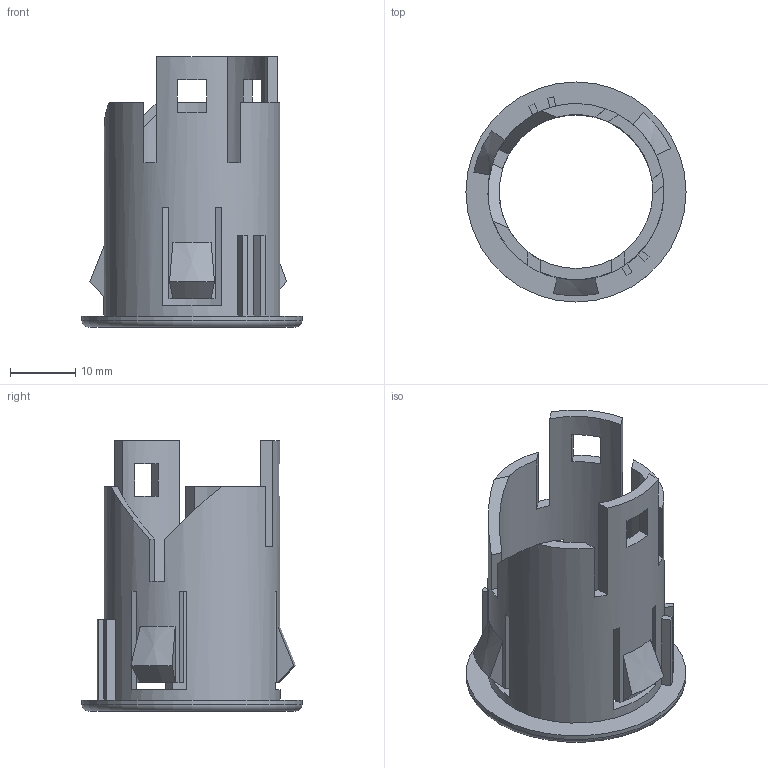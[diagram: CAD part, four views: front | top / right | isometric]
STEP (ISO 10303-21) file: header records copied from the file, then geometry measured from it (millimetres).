
FILE_DESCRIPTION(/* description */ ('STEP AP214'),/* implementation_level */ '2;1');
FILE_NAME(/* name */ '60e74bd2f3e372508d9d0e9b',/* time_stamp */ '2021-07-08T19:02:43+00:00',/* author */ (''),/* organization */ (''),/* preprocessor_version */ 'ST-DEVELOPER v18.1',/* originating_system */ ' ',/* authorisation */ ' ');
FILE_SCHEMA (('AUTOMOTIVE_DESIGN {1 0 10303 214 3 1 1}'));
Length unit declared in the file: metre
Products named in the file (1): Part 1
Bounding box: 33.64 x 33.64 x 41.3 mm (x, y, z)
Volume: 5050.7 mm3; surface area: 6875.9 mm2
Topology: 1 solids, 1 shells, 89 faces, 258 edges, 169 vertices
Faces by surface type: plane 74, cylinder 7, cone 7, torus 1
Full cylindrical faces by diameter (mm): 23.53 x1, 26.93 x1, 33.64 x1
Entity records: 2914 total; most frequent: DIRECTION 514, CARTESIAN_POINT 498, ORIENTED_EDGE 490, EDGE_CURVE 245, AXIS2_PLACEMENT_3D 179, VERTEX_POINT 163, LINE 156, VECTOR 156
